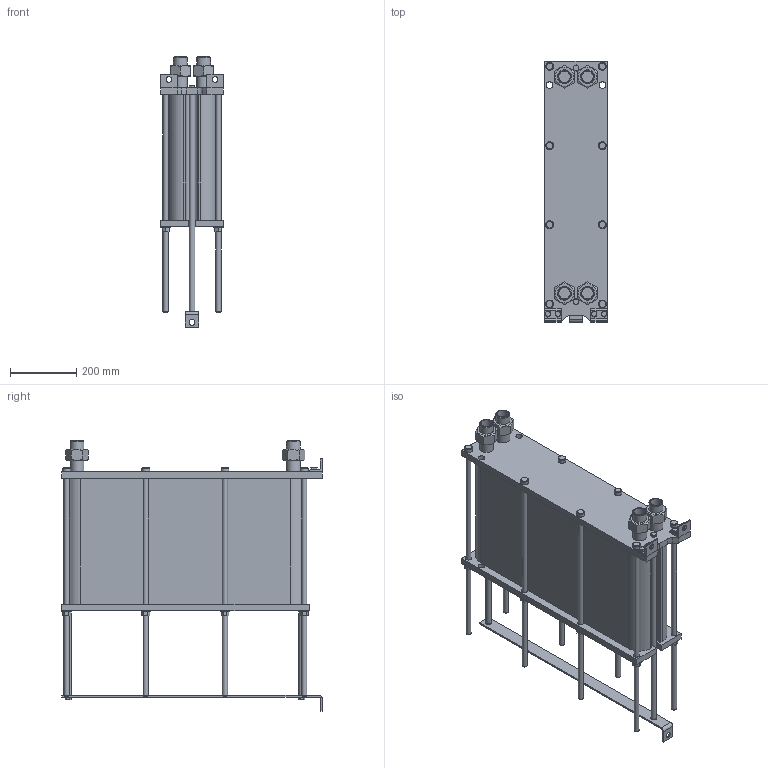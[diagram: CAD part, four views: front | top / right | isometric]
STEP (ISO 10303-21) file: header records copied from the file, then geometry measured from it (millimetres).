
FILE_DESCRIPTION(/* description */ (''),/* implementation_level */ '2;1');
FILE_NAME(/* name */ 'C:\Users\zhuro\Desktop\ENCO\TO\ЭН-008\ЭН-0,5-008-123-1.stp',/* time_stamp */ '2022-06-06T10:57:07+03:00',/* author */ ('zhuro'),/* organization */ (''),/* preprocessor_version */ 'ST-DEVELOPER v18.1',/* originating_system */ 'Autodesk Inventor 2022',/* authorisation */ '');
FILE_SCHEMA (('AUTOMOTIVE_DESIGN { 1 0 10303 214 3 1 1 }'));
Length unit declared in the file: millimetre
Products named in the file (1): ЭН-0,5-008-123-1
Bounding box: 190 x 790 x 819.4 mm (x, y, z)
Volume: 45936109.2 mm3; surface area: 2216077.9 mm2
Topology: 40 solids, 40 shells, 428 faces, 924 edges, 606 vertices
Faces by surface type: plane 273, cylinder 109, cone 40, torus 6
Full cylindrical faces by diameter (mm): 12 x6, 14 x2, 16 x20, 17 x8, 18 x19, 20 x5, 24 x8, 28 x8, 34.3 x8, 42.3 x8
Entity records: 15843 total; most frequent: CARTESIAN_POINT 5991, DIRECTION 1984, ORIENTED_EDGE 1848, EDGE_CURVE 924, AXIS2_PLACEMENT_3D 715, VERTEX_POINT 606, LINE 554, VECTOR 554
